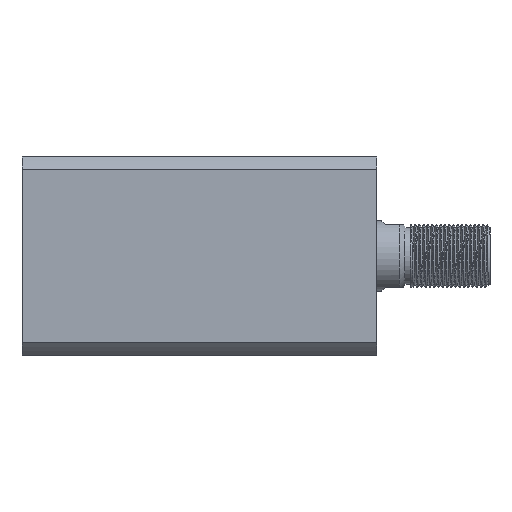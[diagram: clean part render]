
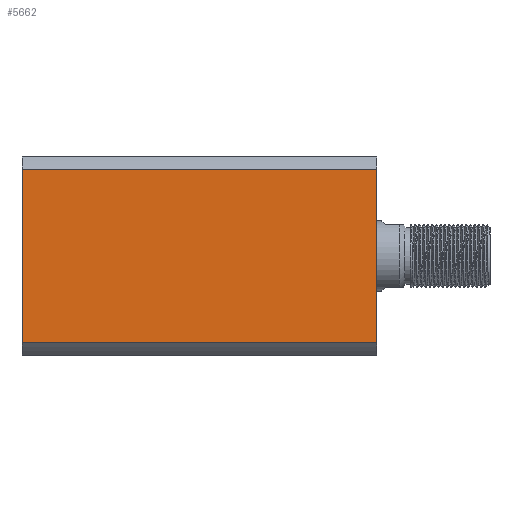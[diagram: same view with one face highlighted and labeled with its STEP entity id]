
A CAD part, left-side view. The second image highlights one B-rep face of the part: STEP entity #5662.
In plain terms, the highlighted planar face has unit normal (-1, 0, 0).
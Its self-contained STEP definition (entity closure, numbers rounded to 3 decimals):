
#500 = EDGE_CURVE ( 'NONE', #12563, #10372, #2864, .T. ) ;
#798 = CARTESIAN_POINT ( 'NONE',  ( -35., -30.615, 0. ) ) ;
#905 = CARTESIAN_POINT ( 'NONE',  ( -35., -30.615, 300. ) ) ;
#907 = EDGE_LOOP ( 'NONE', ( #7657, #5659, #2066, #3408 ) ) ;
#1166 = EDGE_CURVE ( 'NONE', #12563, #13236, #2386, .T. ) ;
#1407 = CARTESIAN_POINT ( 'NONE',  ( -35., 35., 125. ) ) ;
#1997 = DIRECTION ( 'NONE',  ( 0., 0., -1. ) ) ;
#2066 = ORIENTED_EDGE ( 'NONE', *, *, #500, .F. ) ;
#2386 = LINE ( 'NONE', #10650, #10869 ) ;
#2458 = DIRECTION ( 'NONE',  ( 0., 1., 0. ) ) ;
#2864 = LINE ( 'NONE', #5667, #11032 ) ;
#3381 = VERTEX_POINT ( 'NONE', #4974 ) ;
#3408 = ORIENTED_EDGE ( 'NONE', *, *, #1166, .T. ) ;
#3663 = CARTESIAN_POINT ( 'NONE',  ( -35., 35., 125. ) ) ;
#4770 = EDGE_CURVE ( 'NONE', #3381, #13236, #6806, .T. ) ;
#4974 = CARTESIAN_POINT ( 'NONE',  ( -35., -30.615, 125. ) ) ;
#5549 = DIRECTION ( 'NONE',  ( 0., 0., 1. ) ) ;
#5659 = ORIENTED_EDGE ( 'NONE', *, *, #7357, .F. ) ;
#5662 = ADVANCED_FACE ( 'NONE', ( #8460 ), #8707, .F. ) ;
#5667 = CARTESIAN_POINT ( 'NONE',  ( -35., 30.615, 300. ) ) ;
#6142 = VECTOR ( 'NONE', #1997, 1000. ) ;
#6806 = LINE ( 'NONE', #905, #6142 ) ;
#7197 = VECTOR ( 'NONE', #11140, 1000. ) ;
#7357 = EDGE_CURVE ( 'NONE', #10372, #3381, #9370, .T. ) ;
#7657 = ORIENTED_EDGE ( 'NONE', *, *, #4770, .F. ) ;
#8460 = FACE_OUTER_BOUND ( 'NONE', #907, .T. ) ;
#8707 = PLANE ( 'NONE',  #10876 ) ;
#8748 = DIRECTION ( 'NONE',  ( 1., 0., 0. ) ) ;
#9370 = LINE ( 'NONE', #3663, #7197 ) ;
#10285 = CARTESIAN_POINT ( 'NONE',  ( -35., 30.615, 125. ) ) ;
#10372 = VERTEX_POINT ( 'NONE', #10285 ) ;
#10650 = CARTESIAN_POINT ( 'NONE',  ( -35., 35., 0. ) ) ;
#10869 = VECTOR ( 'NONE', #12799, 1000. ) ;
#10876 = AXIS2_PLACEMENT_3D ( 'NONE', #1407, #8748, #2458 ) ;
#11032 = VECTOR ( 'NONE', #5549, 1000. ) ;
#11140 = DIRECTION ( 'NONE',  ( 0., -1., 0. ) ) ;
#12563 = VERTEX_POINT ( 'NONE', #13639 ) ;
#12799 = DIRECTION ( 'NONE',  ( 0., -1., 0. ) ) ;
#13236 = VERTEX_POINT ( 'NONE', #798 ) ;
#13639 = CARTESIAN_POINT ( 'NONE',  ( -35., 30.615, 0. ) ) ;
